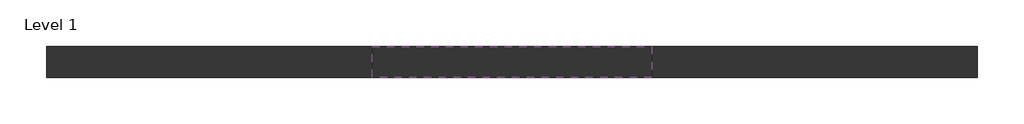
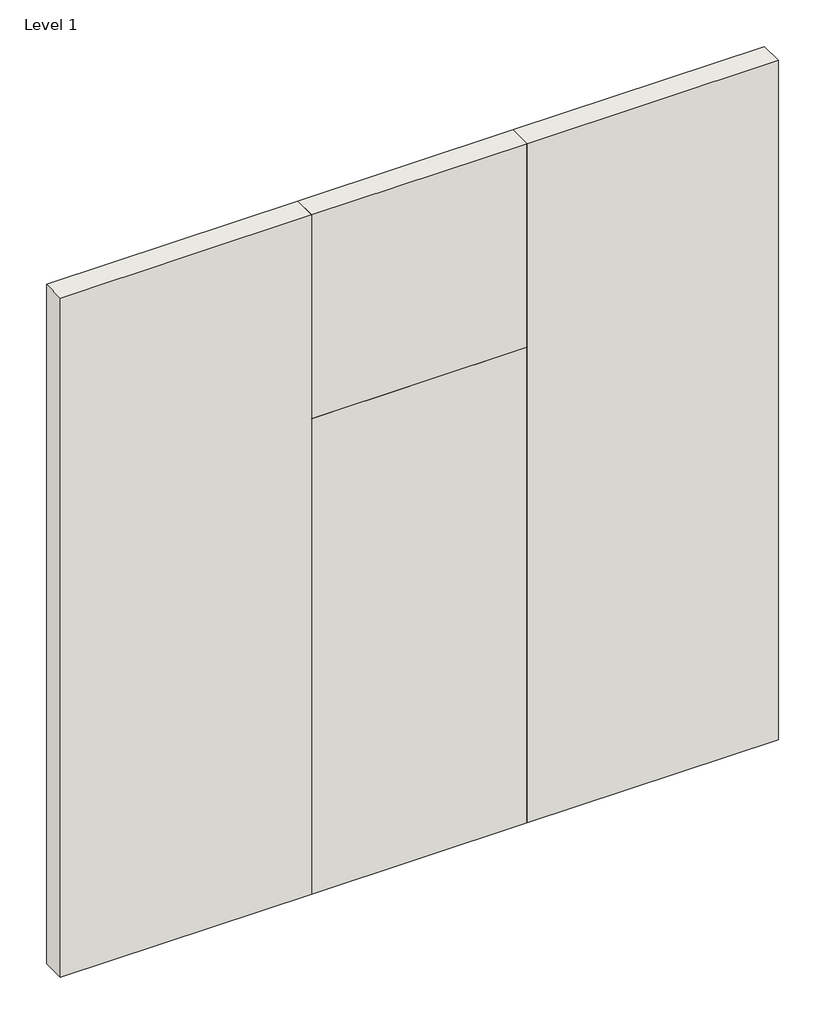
# One storey: 4 walls.
"""IFC4 building model written with IfcOpenShell, lengths in millimetres."""

import ifcopenshell
import ifcopenshell.guid

model = None  # the IFC model being written
_history = None  # IfcOwnerHistory: only IFC2X3 demands one
_inside = {}  # id of a spatial element -> (the spatial element, [elements in it])
_under = {}  # id of a project, library or spatial element -> (it, [spatial elements below it])
_declared = {}  # id of a project -> (the project, [libraries it declares])
_typed = {}  # id of a type object -> (the type object, [elements of that type])
_made_of = {}  # id of a material, layer set ... -> (it, [elements and type objects made of it])


def new_model(schema):
    """Start an empty IFC model of exactly this schema.

    Asked for "IFC4X3", IfcOpenShell would pick the latest addendum, in which some entities
    have other attributes; the version numbers below select the first issue.
    IFC2X3 requires an IfcOwnerHistory on every rooted entity: one is made here for all.
    """
    global model, _history
    if schema == "IFC4X3":
        model = ifcopenshell.file(schema_version=(4, 3, 0, 0))
    else:
        model = ifcopenshell.file(schema=schema)
    _inside.clear()
    _under.clear()
    _declared.clear()
    _typed.clear()
    _made_of.clear()
    _history = None
    if model.schema == "IFC2X3":
        org = make("IfcOrganization", Name="unknown")
        user = make(
            "IfcPersonAndOrganization",
            ThePerson=make("IfcPerson", FamilyName="unknown"),
            TheOrganization=org,
        )
        app = make(
            "IfcApplication",
            ApplicationDeveloper=org,
            Version="unknown",
            ApplicationFullName="unknown",
            ApplicationIdentifier="unknown",
        )
        _history = make(
            "IfcOwnerHistory",
            OwningUser=user,
            OwningApplication=app,
            ChangeAction="ADDED",
            CreationDate=0,
        )
    return model


def make(cls, **values):
    """One entity of the class cls with the attributes given. An attribute that is None is left unset."""
    return model.create_entity(
        cls, **{name: value for name, value in values.items() if value is not None}
    )


def rooted(cls, **values):
    """An entity with a GlobalId (a new one), such as an element, a storey or a relation."""
    return make(cls, GlobalId=ifcopenshell.guid.new(), OwnerHistory=_history, **values)


def si_unit(unit_type, name, prefix=None):
    """IfcSIUnit, for example si_unit("LENGTHUNIT", "METRE", prefix="MILLI")."""
    return make("IfcSIUnit", UnitType=unit_type, Prefix=prefix, Name=name)


def assignment(units):
    """IfcUnitAssignment: the units of a project."""
    return None if units is None else make("IfcUnitAssignment", Units=units)


def point(xyz):
    """IfcCartesianPoint."""
    return None if xyz is None else make("IfcCartesianPoint", Coordinates=xyz)


def direction(xyz):
    """IfcDirection."""
    return None if xyz is None else make("IfcDirection", DirectionRatios=xyz)


def frame(location, z_axis=None, x_axis=None):
    """IfcAxis2Placement3D, a coordinate frame: its origin and axes. An axis left out is left unset."""
    return make(
        "IfcAxis2Placement3D",
        Location=point(location),
        Axis=direction(z_axis),
        RefDirection=direction(x_axis),
    )


def origin():
    """The frame at (0, 0, 0) with its axes left unset."""
    return frame((0.0, 0.0, 0.0))


def origin_with_axes():
    """The frame at (0, 0, 0) with the z axis (0, 0, 1) and the x axis (1, 0, 0) written out."""
    return frame((0.0, 0.0, 0.0), z_axis=(0.0, 0.0, 1.0), x_axis=(1.0, 0.0, 0.0))


def place(relative_to, where):
    """IfcLocalPlacement: puts the frame where relative to a parent placement (None: the world)."""
    return make(
        "IfcLocalPlacement", PlacementRelTo=relative_to, RelativePlacement=where
    )


def context(
    kind, dimensions, precision=None, world=None, true_north=None, identifier=None
):
    """IfcGeometricRepresentationContext, for example the 3D "Model" context."""
    return make(
        "IfcGeometricRepresentationContext",
        ContextIdentifier=identifier,
        ContextType=kind,
        CoordinateSpaceDimension=dimensions,
        Precision=precision,
        WorldCoordinateSystem=world,
        TrueNorth=true_north,
    )


def project(units=None, contexts=None):
    """IfcProject with its units and contexts."""
    return rooted(
        "IfcProject",
        Name="project",
        RepresentationContexts=contexts,
        UnitsInContext=assignment(units),
    )


def spatial(cls, under=None, at=None, **own):
    """A site, building, storey or space (cls), placed at a placement, below another one or the project."""
    s = rooted(cls, ObjectPlacement=at, **own)
    if under is not None:
        _under.setdefault(under.id(), (under, []))[1].append(s)
    return s


def polyline(points):
    """IfcPolyline through the points."""
    return make("IfcPolyline", Points=[point(p) for p in points])


def outline(outer, holes=None, kind="AREA"):
    """IfcArbitraryClosedProfileDef: a profile drawn as a closed curve; with holes, ...WithVoids."""
    if holes is None:
        return make("IfcArbitraryClosedProfileDef", ProfileType=kind, OuterCurve=outer)
    return make(
        "IfcArbitraryProfileDefWithVoids",
        ProfileType=kind,
        OuterCurve=outer,
        InnerCurves=holes,
    )


def extrude(swept, where, along, depth):
    """IfcExtrudedAreaSolid: the profile swept, set in the frame where, extruded along a direction by depth."""
    return make(
        "IfcExtrudedAreaSolid",
        SweptArea=swept,
        Position=where,
        ExtrudedDirection=direction(along),
        Depth=depth,
    )


def faces_of(points, faces, orient=None, outer=None):
    """IfcFace entities. A face is a list of loops; a loop is a list of indices into points, from 0.

    orient and outer hold one flag for each loop. By default every Orientation is true, the
    first loop of a face is its IfcFaceOuterBound and the others are IfcFaceBound.
    """
    made = []
    for i, loops in enumerate(faces):
        bounds = []
        for j, loop in enumerate(loops):
            is_outer = j == 0 if outer is None else outer[i][j]
            bounds.append(
                make(
                    "IfcFaceOuterBound" if is_outer else "IfcFaceBound",
                    Bound=make("IfcPolyLoop", Polygon=[points[k] for k in loop]),
                    Orientation=True if orient is None else orient[i][j],
                )
            )
        made.append(make("IfcFace", Bounds=bounds))
    return made


def faceted_brep(points, faces, orient=None, outer=None, voids=None):
    """IfcFacetedBrep: a solid bounded by flat faces; with voids (closed shells), ...WithVoids."""
    shared = [point(p) for p in points]
    hull = make("IfcClosedShell", CfsFaces=faces_of(shared, faces, orient, outer))
    if voids is None:
        return make("IfcFacetedBrep", Outer=hull)
    return make(
        "IfcFacetedBrepWithVoids",
        Outer=hull,
        Voids=[
            make(cls, CfsFaces=faces_of(shared, fs, o, b)) for cls, fs, o, b in voids
        ],
    )


def shape(context_of_items, identifier, shape_type, items):
    """IfcShapeRepresentation: the items that make up one representation, for example the "Body"."""
    return make(
        "IfcShapeRepresentation",
        ContextOfItems=context_of_items,
        RepresentationIdentifier=identifier,
        RepresentationType=shape_type,
        Items=items,
    )


def made_of(thing, what):
    """Note that an element or type object is made of a material, layer set ...; save() writes the relation."""
    if what is not None:
        _made_of.setdefault(what.id(), (what, []))[1].append(thing)
    return thing


def element(
    cls,
    number,
    at=None,
    inside=None,
    cuts=None,
    type_object=None,
    material=None,
    context=None,
    identifier="Body",
    shape_type=None,
    held_by="IfcProductDefinitionShape",
    body=None,
    shapes=None,
    **own,
):
    """One element of the class cls, such as IfcWall. Its Tag is "e" and its number.

    at: its placement. inside: the storey or other place that contains it. cuts: it is an
    opening in that element (IfcRelVoidsElement). A single representation is given by context,
    identifier, shape_type and body (its items); several are given by shapes. held_by: the class
    of the entity that holds the representations. save() writes the other relations.
    """
    e = rooted(cls, Tag="e%d" % number, ObjectPlacement=at, **own)
    if body is not None:
        shapes = [shape(context, identifier, shape_type, body)]
    if shapes is not None:
        e.Representation = make(held_by, Representations=shapes)
    if inside is not None:
        _inside.setdefault(inside.id(), (inside, []))[1].append(e)
    if cuts is not None:
        rooted(
            "IfcRelVoidsElement", RelatingBuildingElement=cuts, RelatedOpeningElement=e
        )
    if type_object is not None:
        _typed.setdefault(type_object.id(), (type_object, []))[1].append(e)
    return made_of(e, material)


def aggregate(whole, parts):
    """IfcRelAggregates: a whole, such as a stair, and the parts it consists of."""
    return rooted("IfcRelAggregates", RelatingObject=whole, RelatedObjects=parts)


def save(model, path):
    """Write the relations noted so far, then the file.

    IfcRelAggregates (storeys below a building ...), IfcRelContainedInSpatialStructure (elements
    in a storey), IfcRelDefinesByType, IfcRelAssociatesMaterial and IfcRelDeclares: one each for
    every whole, place, type object, material and project.
    """
    for whole, parts in _under.values():
        aggregate(whole, parts)
    for where, things in _inside.values():
        rooted(
            "IfcRelContainedInSpatialStructure",
            RelatedElements=things,
            RelatingStructure=where,
        )
    for kind, things in _typed.values():
        rooted("IfcRelDefinesByType", RelatedObjects=things, RelatingType=kind)
    for what, things in _made_of.values():
        rooted("IfcRelAssociatesMaterial", RelatedObjects=things, RelatingMaterial=what)
    for by, libraries in _declared.values():
        rooted("IfcRelDeclares", RelatingContext=by, RelatedDefinitions=libraries)
    model.write(path)


model = new_model("IFC4")

# Units and contexts
model_context = context("Model", 3, world=origin())
ifc_project = project(units=[si_unit("LENGTHUNIT", "METRE", prefix="MILLI")], contexts=[model_context])

# Site, building, storey
site = spatial("IfcSite", under=ifc_project)
building = spatial("IfcBuilding", under=site)
storey = spatial("IfcBuildingStorey", under=building, Name="Level 1", Elevation=0.0)

# Walls
placement = place(None, origin())
element("IfcWall", 1, ObjectType="Generic - 8\"", at=placement, inside=storey, context=model_context, shape_type="Brep", body=[
    faceted_brep([(21148.420095, 2654.6056529, 0.0), (19014.820095, 2654.6056529, 0.0), (19014.820095, 2654.6056529, 4267.2), (19014.820095, 2654.6056529, 6096.0), (21148.420095, 2654.6056529, 6096.0), (21148.420095, 2451.4056529, 0.0), (21148.420095, 2451.4056529, 6096.0), (19014.820095, 2451.4056529, 6096.0), (19014.820095, 2451.4056529, 4267.2), (19014.820095, 2451.4056529, 0.0)], [[[0, 1, 2, 3, 4]], [[5, 6, 7, 8, 9]], [[1, 0, 5, 9]], [[4, 3, 7, 6]], [[0, 4, 6, 5]], [[1, 9, 8, 7, 3, 2]]]),
])
element("IfcWall", 2, ObjectType="Generic - 8\"", at=placement, inside=storey, context=model_context, shape_type="Brep", body=[
    faceted_brep([(17186.020095, 2654.6056529, 6096.0), (17186.020095, 2654.6056529, 4267.2), (17186.020095, 2654.6056529, 0.0), (15052.420095, 2654.6056529, 0.0), (15052.420095, 2654.6056529, 6096.0), (17186.020095, 2451.4056529, 0.0), (17186.020095, 2451.4056529, 4267.2), (17186.020095, 2451.4056529, 6096.0), (15052.420095, 2451.4056529, 6096.0), (15052.420095, 2451.4056529, 0.0)], [[[0, 1, 2, 3, 4]], [[5, 6, 7, 8, 9]], [[3, 2, 5, 9]], [[4, 3, 9, 8]], [[0, 4, 8, 7]], [[0, 7, 6, 5, 2, 1]]]),
])
element("IfcWall", 3, ObjectType="Generic - 8\"", at=placement, inside=storey, context=model_context, shape_type="SweptSolid", body=[
    extrude(outline(polyline([(17186.020095, 2654.6056529), (19014.820095, 2654.6056529), (19014.820095, 2451.4056529), (17186.020095, 2451.4056529), (17186.020095, 2654.6056529)])), origin_with_axes(), (0.0, 0.0, 1.0), 4267.2),
])
element("IfcWall", 4, ObjectType="Generic - 8\"", at=placement, inside=storey, context=model_context, shape_type="SweptSolid", body=[
    extrude(outline(polyline([(17186.020095, 2654.6056529), (19014.820095, 2654.6056529), (19014.820095, 2451.4056529), (17186.020095, 2451.4056529), (17186.020095, 2654.6056529)])), frame((0.0, 0.0, 4267.2), z_axis=(0.0, 0.0, 1.0), x_axis=(1.0, 0.0, 0.0)), (0.0, 0.0, 1.0), 1828.8),
])

save(model, "model.ifc")
